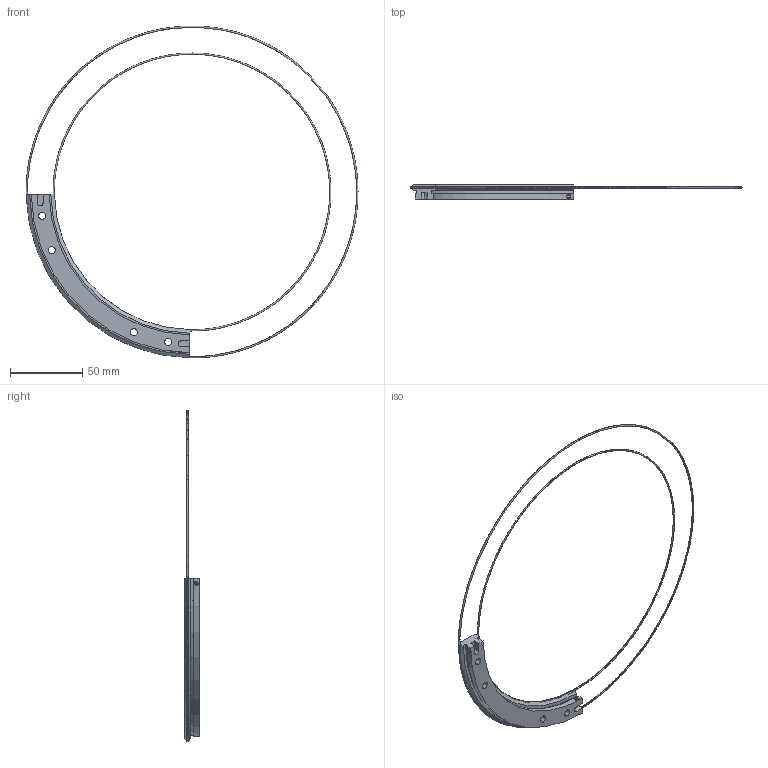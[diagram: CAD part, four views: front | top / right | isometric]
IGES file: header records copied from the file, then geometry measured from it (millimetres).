
Start section: 3D InterOp IGES (v. 2019 1.0.2), Spatial Corp. Copyright (c) 1999-2017.
Global section: file name: TR20 210 R90.igs; native system: Spatial Corp.; preprocessor: 3D InterOp GENERIC/IGES 3.0; author: Noname; organization: Noname; date: 20220628.092358; units: millimetre
Bounding box: 229.62 x 10 x 229.61 mm (x, y, z)
Surface area: 14993.1 mm2 (no closed solid volume)
Topology: 0 solids, 0 shells, 88 faces, 448 edges, 446 vertices
Faces by surface type: extrusion 50, revolution 38
